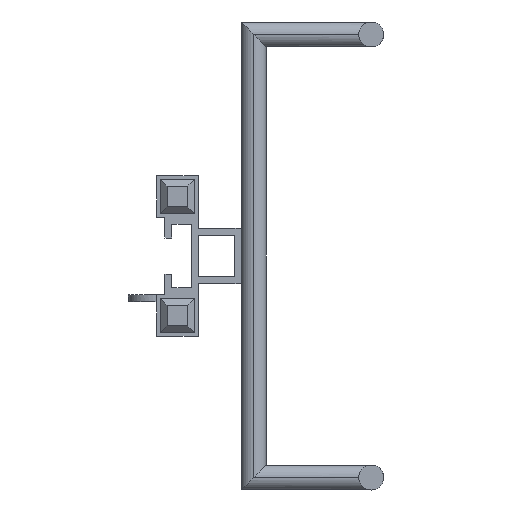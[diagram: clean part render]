
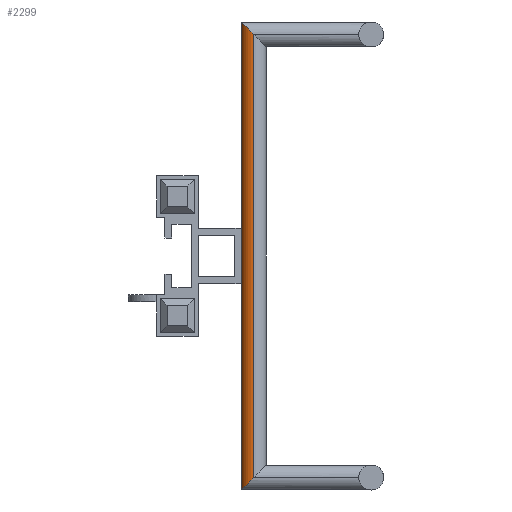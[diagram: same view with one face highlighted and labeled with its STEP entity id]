
A CAD part, front view. The second image highlights one B-rep face of the part: STEP entity #2299.
In plain terms, the highlighted cylindrical face has radius 9 mm (diameter 18 mm), a partial arc.
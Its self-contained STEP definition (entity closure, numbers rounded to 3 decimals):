
#1809=CARTESIAN_POINT('',(40.,589.,160.));
#1810=CARTESIAN_POINT('',(39.747,589.,160.253));
#1811=CARTESIAN_POINT('',(39.244,588.979,160.756));
#1812=CARTESIAN_POINT('',(38.496,588.884,161.504));
#1813=CARTESIAN_POINT('',(37.765,588.729,162.235));
#1814=CARTESIAN_POINT('',(37.058,588.516,162.942));
#1815=CARTESIAN_POINT('',(36.382,588.251,163.618));
#1816=CARTESIAN_POINT('',(35.743,587.94,164.257));
#1817=CARTESIAN_POINT('',(35.143,587.588,164.857));
#1818=CARTESIAN_POINT('',(34.587,587.201,165.413));
#1819=CARTESIAN_POINT('',(34.075,586.785,165.925));
#1820=CARTESIAN_POINT('',(33.608,586.346,166.392));
#1821=CARTESIAN_POINT('',(33.184,585.888,166.816));
#1822=CARTESIAN_POINT('',(32.805,585.418,167.195));
#1823=CARTESIAN_POINT('',(32.467,584.936,167.533));
#1824=CARTESIAN_POINT('',(32.17,584.449,167.83));
#1825=CARTESIAN_POINT('',(31.91,583.956,168.09));
#1826=CARTESIAN_POINT('',(31.687,583.462,168.313));
#1827=CARTESIAN_POINT('',(31.497,582.966,168.503));
#1828=CARTESIAN_POINT('',(31.341,582.471,168.659));
#1829=CARTESIAN_POINT('',(31.214,581.975,168.786));
#1830=CARTESIAN_POINT('',(31.118,581.48,168.882));
#1831=CARTESIAN_POINT('',(31.05,580.986,168.95));
#1832=CARTESIAN_POINT('',(31.009,580.493,168.991));
#1833=CARTESIAN_POINT('',(30.996,580.,169.004));
#1834=CARTESIAN_POINT('',(31.009,579.507,168.991));
#1835=CARTESIAN_POINT('',(31.05,579.014,168.95));
#1836=CARTESIAN_POINT('',(31.118,578.52,168.882));
#1837=CARTESIAN_POINT('',(31.214,578.025,168.786));
#1838=CARTESIAN_POINT('',(31.341,577.529,168.659));
#1839=CARTESIAN_POINT('',(31.497,577.034,168.503));
#1840=CARTESIAN_POINT('',(31.687,576.538,168.313));
#1841=CARTESIAN_POINT('',(31.91,576.044,168.09));
#1842=CARTESIAN_POINT('',(32.17,575.551,167.83));
#1843=CARTESIAN_POINT('',(32.467,575.064,167.533));
#1844=CARTESIAN_POINT('',(32.805,574.582,167.195));
#1845=CARTESIAN_POINT('',(33.184,574.112,166.816));
#1846=CARTESIAN_POINT('',(33.608,573.654,166.392));
#1847=CARTESIAN_POINT('',(34.075,573.215,165.925));
#1848=CARTESIAN_POINT('',(34.587,572.799,165.413));
#1849=CARTESIAN_POINT('',(35.143,572.412,164.857));
#1850=CARTESIAN_POINT('',(35.743,572.06,164.257));
#1851=CARTESIAN_POINT('',(36.382,571.749,163.618));
#1852=CARTESIAN_POINT('',(37.058,571.484,162.942));
#1853=CARTESIAN_POINT('',(37.765,571.271,162.235));
#1854=CARTESIAN_POINT('',(38.496,571.116,161.504));
#1855=CARTESIAN_POINT('',(39.244,571.021,160.756));
#1856=CARTESIAN_POINT('',(39.747,571.,160.253));
#1857=CARTESIAN_POINT('',(40.,571.,160.));
#1863=CARTESIAN_POINT('',(40.,589.,-160.));
#1864=CARTESIAN_POINT('',(39.747,589.,-160.253));
#1865=CARTESIAN_POINT('',(39.244,588.979,-160.756));
#1866=CARTESIAN_POINT('',(38.496,588.884,-161.504));
#1867=CARTESIAN_POINT('',(37.765,588.729,-162.235));
#1868=CARTESIAN_POINT('',(37.058,588.516,-162.942));
#1869=CARTESIAN_POINT('',(36.382,588.251,-163.618));
#1870=CARTESIAN_POINT('',(35.743,587.94,-164.257));
#1871=CARTESIAN_POINT('',(35.143,587.588,-164.857));
#1872=CARTESIAN_POINT('',(34.587,587.201,-165.413));
#1873=CARTESIAN_POINT('',(34.075,586.785,-165.925));
#1874=CARTESIAN_POINT('',(33.608,586.346,-166.392));
#1875=CARTESIAN_POINT('',(33.184,585.888,-166.816));
#1876=CARTESIAN_POINT('',(32.805,585.418,-167.195));
#1877=CARTESIAN_POINT('',(32.467,584.936,-167.533));
#1878=CARTESIAN_POINT('',(32.17,584.449,-167.83));
#1879=CARTESIAN_POINT('',(31.91,583.956,-168.09));
#1880=CARTESIAN_POINT('',(31.687,583.462,-168.313));
#1881=CARTESIAN_POINT('',(31.497,582.966,-168.503));
#1882=CARTESIAN_POINT('',(31.341,582.471,-168.659));
#1883=CARTESIAN_POINT('',(31.214,581.975,-168.786));
#1884=CARTESIAN_POINT('',(31.118,581.48,-168.882));
#1885=CARTESIAN_POINT('',(31.05,580.986,-168.95));
#1886=CARTESIAN_POINT('',(31.009,580.493,-168.991));
#1887=CARTESIAN_POINT('',(30.996,580.,-169.004));
#1888=CARTESIAN_POINT('',(31.009,579.507,-168.991));
#1889=CARTESIAN_POINT('',(31.05,579.014,-168.95));
#1890=CARTESIAN_POINT('',(31.118,578.52,-168.882));
#1891=CARTESIAN_POINT('',(31.214,578.025,-168.786));
#1892=CARTESIAN_POINT('',(31.341,577.529,-168.659));
#1893=CARTESIAN_POINT('',(31.497,577.034,-168.503));
#1894=CARTESIAN_POINT('',(31.687,576.538,-168.313));
#1895=CARTESIAN_POINT('',(31.91,576.044,-168.09));
#1896=CARTESIAN_POINT('',(32.17,575.551,-167.83));
#1897=CARTESIAN_POINT('',(32.467,575.064,-167.533));
#1898=CARTESIAN_POINT('',(32.805,574.582,-167.195));
#1899=CARTESIAN_POINT('',(33.184,574.112,-166.816));
#1900=CARTESIAN_POINT('',(33.608,573.654,-166.392));
#1901=CARTESIAN_POINT('',(34.075,573.215,-165.925));
#1902=CARTESIAN_POINT('',(34.587,572.799,-165.413));
#1903=CARTESIAN_POINT('',(35.143,572.412,-164.857));
#1904=CARTESIAN_POINT('',(35.743,572.06,-164.257));
#1905=CARTESIAN_POINT('',(36.382,571.749,-163.618));
#1906=CARTESIAN_POINT('',(37.058,571.484,-162.942));
#1907=CARTESIAN_POINT('',(37.765,571.271,-162.235));
#1908=CARTESIAN_POINT('',(38.496,571.116,-161.504));
#1909=CARTESIAN_POINT('',(39.244,571.021,-160.756));
#1910=CARTESIAN_POINT('',(39.747,571.,-160.253));
#1911=CARTESIAN_POINT('',(40.,571.,-160.));
#1913=DIRECTION('',(0.,0.,1.));
#1914=VECTOR('',#1913,320.);
#1915=CARTESIAN_POINT('',(40.,589.,-160.));
#1916=LINE('',#1915,#1914);
#2051=CARTESIAN_POINT('',(40.,571.,-160.));
#2099=CARTESIAN_POINT('',(40.,589.,-160.));
#2101=DIRECTION('',(0.,0.,1.));
#2102=VECTOR('',#2101,320.);
#2103=CARTESIAN_POINT('',(40.,571.,-160.));
#2104=LINE('',#2103,#2102);
#2105=CARTESIAN_POINT('',(40.,571.,160.));
#2153=CARTESIAN_POINT('',(40.,589.,160.));
#2235=VERTEX_POINT('',#2051);
#2236=VERTEX_POINT('',#2099);
#2239=VERTEX_POINT('',#2105);
#2240=VERTEX_POINT('',#2153);
#2285=CARTESIAN_POINT('',(40.,580.,-160.));
#2286=DIRECTION('',(0.,0.,1.));
#2287=DIRECTION('',(0.,-1.,0.));
#2288=AXIS2_PLACEMENT_3D('',#2285,#2286,#2287);
#2289=CYLINDRICAL_SURFACE('',#2288,9.);
#2291=ORIENTED_EDGE('',*,*,#2290,.F.);
#2293=ORIENTED_EDGE('',*,*,#2292,.T.);
#2294=ORIENTED_EDGE('',*,*,#2274,.T.);
#2296=ORIENTED_EDGE('',*,*,#2295,.F.);
#2297=EDGE_LOOP('',(#2291,#2293,#2294,#2296));
#2298=FACE_OUTER_BOUND('',#2297,.F.);
#1858=B_SPLINE_CURVE_WITH_KNOTS('',3,(#1809,#1810,#1811,#1812,#1813,#1814,#1815,
#1816,#1817,#1818,#1819,#1820,#1821,#1822,#1823,#1824,#1825,#1826,#1827,#1828,
#1829,#1830,#1831,#1832,#1833,#1834,#1835,#1836,#1837,#1838,#1839,#1840,#1841,
#1842,#1843,#1844,#1845,#1846,#1847,#1848,#1849,#1850,#1851,#1852,#1853,#1854,
#1855,#1856,#1857),.UNSPECIFIED.,.F.,.F.,(4,1,1,1,1,1,1,1,1,1,1,1,1,1,1,1,1,1,1,
1,1,1,1,1,1,1,1,1,1,1,1,1,1,1,1,1,1,1,1,1,1,1,1,1,1,1,4),(0.,
0.022,0.043,0.065,0.087,
0.109,0.13,0.152,0.174,
0.196,0.217,0.239,0.261,
0.283,0.304,0.326,0.348,
0.37,0.391,0.413,0.435,
0.457,0.478,0.5,0.522,0.543,
0.565,0.587,0.609,0.63,
0.652,0.674,0.696,0.717,
0.739,0.761,0.783,0.804,
0.826,0.848,0.87,0.891,
0.913,0.935,0.957,0.978,1.),
.UNSPECIFIED.);
#1912=B_SPLINE_CURVE_WITH_KNOTS('',3,(#1863,#1864,#1865,#1866,#1867,#1868,#1869,
#1870,#1871,#1872,#1873,#1874,#1875,#1876,#1877,#1878,#1879,#1880,#1881,#1882,
#1883,#1884,#1885,#1886,#1887,#1888,#1889,#1890,#1891,#1892,#1893,#1894,#1895,
#1896,#1897,#1898,#1899,#1900,#1901,#1902,#1903,#1904,#1905,#1906,#1907,#1908,
#1909,#1910,#1911),.UNSPECIFIED.,.F.,.F.,(4,1,1,1,1,1,1,1,1,1,1,1,1,1,1,1,1,1,1,
1,1,1,1,1,1,1,1,1,1,1,1,1,1,1,1,1,1,1,1,1,1,1,1,1,1,1,4),(0.,
0.022,0.043,0.065,0.087,
0.109,0.13,0.152,0.174,
0.196,0.217,0.239,0.261,
0.283,0.304,0.326,0.348,
0.37,0.391,0.413,0.435,
0.457,0.478,0.5,0.522,0.543,
0.565,0.587,0.609,0.63,
0.652,0.674,0.696,0.717,
0.739,0.761,0.783,0.804,
0.826,0.848,0.87,0.891,
0.913,0.935,0.957,0.978,1.),
.UNSPECIFIED.);
#2274=EDGE_CURVE('',#2240,#2239,#1858,.T.);
#2290=EDGE_CURVE('',#2236,#2235,#1912,.T.);
#2292=EDGE_CURVE('',#2236,#2240,#1916,.T.);
#2295=EDGE_CURVE('',#2235,#2239,#2104,.T.);
#2299=ADVANCED_FACE('',(#2298),#2289,.T.);
